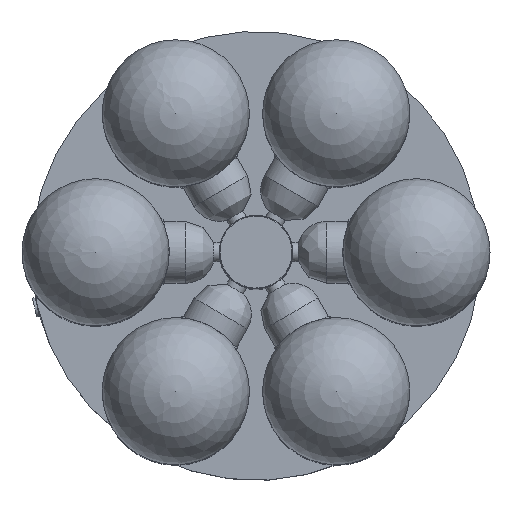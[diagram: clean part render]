
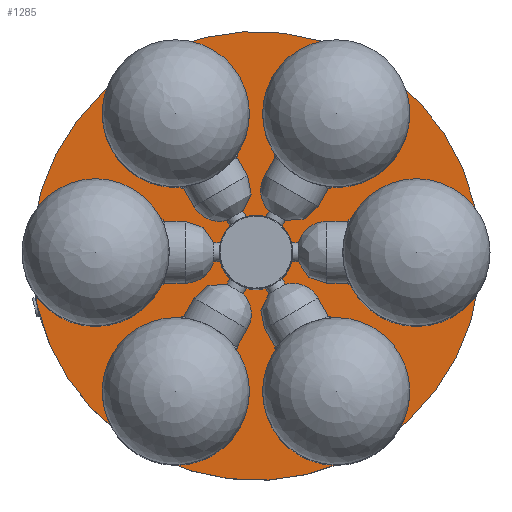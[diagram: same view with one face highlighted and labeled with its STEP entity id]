
A CAD part, top view. The second image highlights one B-rep face of the part: STEP entity #1285.
In plain terms, the highlighted planar face has unit normal (0, 0, 1).
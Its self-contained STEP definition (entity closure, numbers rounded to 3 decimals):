
#29=FACE_BOUND('',#219,.T.);
#45=PLANE('',#1451);
#134=FACE_OUTER_BOUND('',#218,.T.);
#218=EDGE_LOOP('',(#1119,#1120));
#219=EDGE_LOOP('',(#1121));
#300=CIRCLE('',#1317,152.5);
#386=CIRCLE('',#1452,152.5);
#387=CIRCLE('',#1453,12.5);
#464=VERTEX_POINT('',#1827);
#466=VERTEX_POINT('',#1830);
#584=VERTEX_POINT('',#3234);
#595=EDGE_CURVE('',#466,#464,#300,.T.);
#770=EDGE_CURVE('',#464,#466,#386,.T.);
#771=EDGE_CURVE('',#584,#584,#387,.T.);
#1119=ORIENTED_EDGE('',*,*,#595,.T.);
#1120=ORIENTED_EDGE('',*,*,#770,.T.);
#1121=ORIENTED_EDGE('',*,*,#771,.F.);
#1285=ADVANCED_FACE('',(#134,#29),#45,.F.);
#1317=AXIS2_PLACEMENT_3D('',#1831,#1479,#1480);
#1451=AXIS2_PLACEMENT_3D('',#3232,#1772,#1773);
#1452=AXIS2_PLACEMENT_3D('',#3233,#1774,#1775);
#1453=AXIS2_PLACEMENT_3D('',#3235,#1776,#1777);
#1479=DIRECTION('center_axis',(0.,0.,
1.));
#1480=DIRECTION('ref_axis',(0.227,-0.974,0.));
#1772=DIRECTION('center_axis',(0.,0.,
-1.));
#1773=DIRECTION('ref_axis',(-0.227,0.974,0.));
#1774=DIRECTION('center_axis',(0.,0.,
1.));
#1775=DIRECTION('ref_axis',(0.227,-0.974,0.));
#1776=DIRECTION('center_axis',(0.,0.,
1.));
#1777=DIRECTION('ref_axis',(0.119,0.993,0.));
#1827=CARTESIAN_POINT('',(-148.531,-34.566,45.));
#1830=CARTESIAN_POINT('',(-34.566,148.531,45.));
#1831=CARTESIAN_POINT('Origin',(0.,0.,
45.));
#3232=CARTESIAN_POINT('Origin',(0.,0.,
45.));
#3233=CARTESIAN_POINT('Origin',(0.,0.,
45.));
#3234=CARTESIAN_POINT('',(-1.485,-12.411,45.));
#3235=CARTESIAN_POINT('Origin',(0.,0.,
45.));
